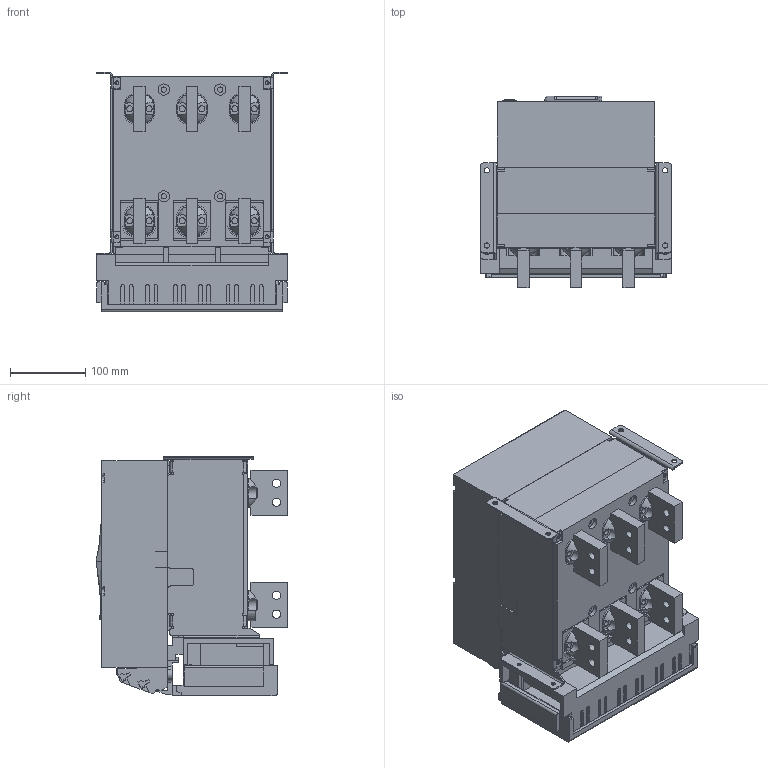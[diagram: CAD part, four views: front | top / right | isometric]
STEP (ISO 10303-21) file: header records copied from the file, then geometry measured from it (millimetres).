
FILE_DESCRIPTION((''),'2;1');
FILE_NAME('NA8G-1600-1250-F-3P-V_ASM','2019-05-31T10:39:35',('lcc'),(''),'CREO PARAMETRIC BY PTC INC, 2018020','CREO PARAMETRIC BY PTC INC, 2018020','');
FILE_SCHEMA(('CONFIG_CONTROL_DESIGN','SHAPE_APPEARANCE_LAYERS_GROUPS'));
Products named in the file (18): 1600-JIZUO-3P; 1600-DIBAN-3P; 8-050-245; 8-050-246; 8-300-166; 8-015-021; 8-300-162-2; 8ZTD-064-138; 8ZTD-024-689; 8ZTD-860-511; 1600-DUANZI-CTS_ASM; 8-253-348; 8-253-349; 8-253-309; 5-235-147; 8ZTD-580-199-3; 8-211-087; NA8G-1600-1250-F-3P-V_ASM
Assembly tree (37 placements, depth 3):
  NA8G-1600-1250-F-3P-V_ASM
    1600-JIZUO-3P
    1600-DIBAN-3P
    8-050-245
    8-050-246
    8-300-166
    8-015-021
    8-300-162-2
    1600-DUANZI-CTS_ASM
      8ZTD-064-138
      8ZTD-024-689  x14
      8ZTD-860-511
    8-253-348
    8-253-349
    8-253-309
    5-235-147
    8ZTD-580-199-3  x6
    8-211-087  x3
Bounding box: 254 x 255 x 318.5 mm (x, y, z)
Volume: 6943864.3 mm3; surface area: 1415005 mm2
Topology: 36 solids, 47 shells, 4955 faces, 13854 edges, 9121 vertices
Faces by surface type: plane 4011, cylinder 869, bspline 34, torus 30, sphere 10, extrusion 1
Entity records: 118971 total; most frequent: CARTESIAN_POINT 17082, ORIENTED_EDGE 15658, DIRECTION 14841, PRESENTATION_STYLE_ASSIGNMENT 8405, STYLED_ITEM 8390, CURVE_STYLE 7832, EDGE_CURVE 7832, VECTOR 6431
